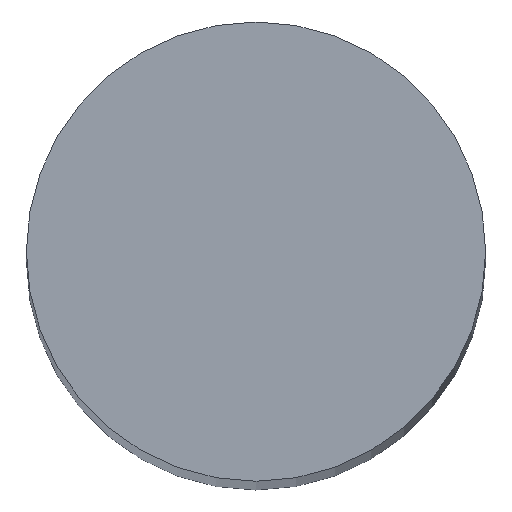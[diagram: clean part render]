
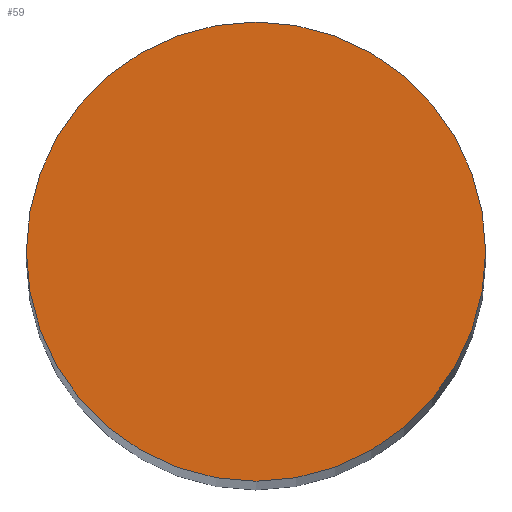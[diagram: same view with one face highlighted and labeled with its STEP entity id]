
A CAD part, top view. The second image highlights one B-rep face of the part: STEP entity #59.
In plain terms, the highlighted planar face has unit normal (0, 0, 1).
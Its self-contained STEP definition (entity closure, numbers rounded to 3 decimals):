
#24 = VERTEX_POINT('',#25);
#25 = CARTESIAN_POINT('',(4.,0.,87.25));
#31 = EDGE_CURVE('',#24,#24,#32,.T.);
#32 = CIRCLE('',#33,4.);
#33 = AXIS2_PLACEMENT_3D('',#34,#35,#36);
#34 = CARTESIAN_POINT('',(0.,0.,87.25));
#35 = DIRECTION('',(0.,0.,1.));
#36 = DIRECTION('',(1.,0.,0.));
#59 = ADVANCED_FACE('',(#60),#63,.T.);
#60 = FACE_BOUND('',#61,.T.);
#61 = EDGE_LOOP('',(#62));
#62 = ORIENTED_EDGE('',*,*,#31,.T.);
#63 = PLANE('',#64);
#64 = AXIS2_PLACEMENT_3D('',#65,#66,#67);
#65 = CARTESIAN_POINT('',(0.,0.,87.25)
  );
#66 = DIRECTION('',(0.,0.,1.));
#67 = DIRECTION('',(1.,0.,0.));
